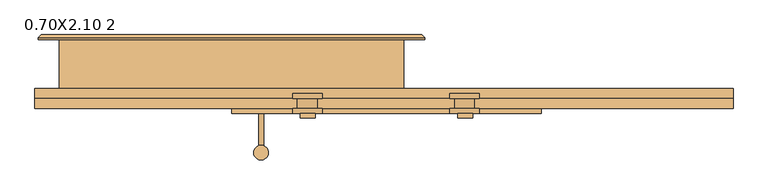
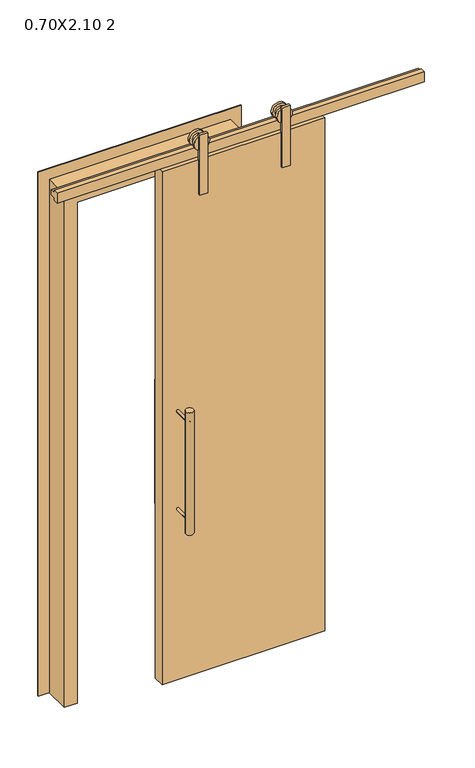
"""IFC4 building model written with IfcOpenShell, lengths in millimetres: door geometry, Porta de correr com revestimento - 1 Painel com trilho de aço inoxidável : 0.70X2.10 2."""

from ifc_helpers import new_model, si_unit, point, frame, frame_2d, origin, origin_with_axes, place, context, project, spatial, polyline, circle_curve, trimmed, segment, composite_curve, outline, extrude, faceted_brep, source, transform, mapped, element, save


def door_0_70x2_10_2_77146840(model_context):
    return source(origin(), model_context, "Body", "SolidModel", [
        extrude(outline(composite_curve([segment(trimmed(circle_curve(frame_2d((60.0, 25.0)), 15.0), [point((45.0, 25.0))], [point((75.0, 25.0))], False, "CARTESIAN"), True, "CONTINUOUS"), segment(trimmed(circle_curve(frame_2d((60.0, 25.0)), 15.0), [point((75.0, 25.0))], [point((45.0, 25.0))], False, "CARTESIAN"), True, "CONTINUOUS")], self_intersect=False)), frame((0.0, 0.0, 650.0), z_axis=(0.0, 0.0, 1.0), x_axis=(1.0, 0.0, 0.0)), (0.0, 0.0, 1.0), 500.0),
        extrude(outline(composite_curve([segment(trimmed(circle_curve(frame_2d((1100.0, 60.0)), 5.0), [point((1100.0, 55.0))], [point((1100.0, 65.0))], False, "CARTESIAN"), True, "CONTINUOUS"), segment(trimmed(circle_curve(frame_2d((1100.0, 60.0)), 5.0), [point((1100.0, 65.0))], [point((1100.0, 55.0))], False, "CARTESIAN"), True, "CONTINUOUS")], self_intersect=False)), frame((0.0, -55.0, 0.0), z_axis=(0.0, 1.0, 0.0), x_axis=(0.0, 0.0, 1.0)), (0.0, 0.0, 1.0), 80.0),
        extrude(outline(composite_curve([segment(trimmed(circle_curve(frame_2d((700.0, 60.0)), 5.0), [point((700.0, 55.0))], [point((700.0, 65.0))], False, "CARTESIAN"), True, "CONTINUOUS"), segment(trimmed(circle_curve(frame_2d((700.0, 60.0)), 5.0), [point((700.0, 65.0))], [point((700.0, 55.0))], False, "CARTESIAN"), True, "CONTINUOUS")], self_intersect=False)), frame((0.0, -55.0, 0.0), z_axis=(0.0, 1.0, 0.0), x_axis=(0.0, 0.0, 1.0)), (0.0, 0.0, 1.0), 80.0),
        extrude(outline(composite_curve([segment(trimmed(circle_curve(frame_2d((1100.0, 60.0)), 5.0), [point((1100.0, 55.0))], [point((1100.0, 65.0))], False, "CARTESIAN"), True, "CONTINUOUS"), segment(trimmed(circle_curve(frame_2d((1100.0, 60.0)), 5.0), [point((1100.0, 65.0))], [point((1100.0, 55.0))], False, "CARTESIAN"), True, "CONTINUOUS")], self_intersect=False)), frame((0.0, -180.0, 0.0), z_axis=(0.0, 1.0, 0.0), x_axis=(0.0, 0.0, 1.0)), (0.0, 0.0, 1.0), 80.0),
        extrude(outline(composite_curve([segment(trimmed(circle_curve(frame_2d((700.0, 60.0)), 5.0), [point((700.0, 55.0))], [point((700.0, 65.0))], False, "CARTESIAN"), True, "CONTINUOUS"), segment(trimmed(circle_curve(frame_2d((700.0, 60.0)), 5.0), [point((700.0, 65.0))], [point((700.0, 55.0))], False, "CARTESIAN"), True, "CONTINUOUS")], self_intersect=False)), frame((0.0, -180.0, 0.0), z_axis=(0.0, 1.0, 0.0), x_axis=(0.0, 0.0, 1.0)), (0.0, 0.0, 1.0), 80.0),
        extrude(outline(composite_curve([segment(trimmed(circle_curve(frame_2d((60.0, -180.0)), 15.0), [point((45.0, -180.0))], [point((75.0, -180.0))], False, "CARTESIAN"), True, "CONTINUOUS"), segment(trimmed(circle_curve(frame_2d((60.0, -180.0)), 15.0), [point((75.0, -180.0))], [point((45.0, -180.0))], False, "CARTESIAN"), True, "CONTINUOUS")], self_intersect=False)), frame((0.0, 0.0, 650.0), z_axis=(0.0, 0.0, 1.0), x_axis=(1.0, 0.0, 0.0)), (0.0, 0.0, 1.0), 500.0),
        extrude(outline(composite_curve([segment(trimmed(circle_curve(frame_2d((2165.0, 473.9705806)), 30.0), [point((2165.0, 503.9705806))], [point((2165.0, 443.9705806))], False, "CARTESIAN"), True, "CONTINUOUS"), segment(trimmed(circle_curve(frame_2d((2165.0, 473.9705806)), 30.0), [point((2165.0, 443.9705806))], [point((2165.0, 503.9705806))], False, "CARTESIAN"), True, "CONTINUOUS")], self_intersect=False)), frame((0.0, -100.0, 0.0), z_axis=(0.0, 1.0, 0.0), x_axis=(0.0, 0.0, 1.0)), (0.0, 0.0, 1.0), 10.0),
        extrude(outline(polyline([(490.0, -110.0), (460.0, -110.0), (460.0, -100.0), (490.0, -100.0), (490.0, -110.0)])), frame((0.0, 0.0, 1960.0), z_axis=(0.0, 0.0, 1.0), x_axis=(1.0, 0.0, 0.0)), (0.0, 0.0, 1.0), 245.0),
        extrude(outline(composite_curve([segment(trimmed(circle_curve(frame_2d((2165.0, 473.9705806)), 20.0), [point((2165.0, 493.9705806))], [point((2165.0, 453.9705806))], False, "CARTESIAN"), True, "CONTINUOUS"), segment(trimmed(circle_curve(frame_2d((2165.0, 473.9705806)), 20.0), [point((2165.0, 453.9705806))], [point((2165.0, 493.9705806))], False, "CARTESIAN"), True, "CONTINUOUS")], self_intersect=False)), frame((0.0, -90.0, 0.0), z_axis=(0.0, 1.0, 0.0), x_axis=(0.0, 0.0, 1.0)), (0.0, 0.0, 1.0), 20.0),
        extrude(outline(composite_curve([segment(trimmed(circle_curve(frame_2d((2165.0, 473.9705806)), 30.0), [point((2165.0, 503.9705806))], [point((2165.0, 443.9705806))], False, "CARTESIAN"), True, "CONTINUOUS"), segment(trimmed(circle_curve(frame_2d((2165.0, 473.9705806)), 30.0), [point((2165.0, 443.9705806))], [point((2165.0, 503.9705806))], False, "CARTESIAN"), True, "CONTINUOUS")], self_intersect=False)), frame((0.0, -70.0, 0.0), z_axis=(0.0, 1.0, 0.0), x_axis=(0.0, 0.0, 1.0)), (0.0, 0.0, 1.0), 10.0),
        extrude(outline(composite_curve([segment(trimmed(circle_curve(frame_2d((2165.0, 153.9705806)), 30.0), [point((2165.0, 183.9705806))], [point((2165.0, 123.9705806))], False, "CARTESIAN"), True, "CONTINUOUS"), segment(trimmed(circle_curve(frame_2d((2165.0, 153.9705806)), 30.0), [point((2165.0, 123.9705806))], [point((2165.0, 183.9705806))], False, "CARTESIAN"), True, "CONTINUOUS")], self_intersect=False)), frame((0.0, -100.0, 0.0), z_axis=(0.0, 1.0, 0.0), x_axis=(0.0, 0.0, 1.0)), (0.0, 0.0, 1.0), 10.0),
        extrude(outline(polyline([(170.0, -110.0), (140.0, -110.0), (140.0, -100.0), (170.0, -100.0), (170.0, -110.0)])), frame((0.0, 0.0, 1960.0), z_axis=(0.0, 0.0, 1.0), x_axis=(1.0, 0.0, 0.0)), (0.0, 0.0, 1.0), 245.0),
        extrude(outline(composite_curve([segment(trimmed(circle_curve(frame_2d((2165.0, 153.9705806)), 20.0), [point((2165.0, 173.9705806))], [point((2165.0, 133.9705806))], False, "CARTESIAN"), True, "CONTINUOUS"), segment(trimmed(circle_curve(frame_2d((2165.0, 153.9705806)), 20.0), [point((2165.0, 133.9705806))], [point((2165.0, 173.9705806))], False, "CARTESIAN"), True, "CONTINUOUS")], self_intersect=False)), frame((0.0, -90.0, 0.0), z_axis=(0.0, 1.0, 0.0), x_axis=(0.0, 0.0, 1.0)), (0.0, 0.0, 1.0), 20.0),
        extrude(outline(composite_curve([segment(trimmed(circle_curve(frame_2d((2165.0, 153.9705806)), 30.0), [point((2165.0, 183.9705806))], [point((2165.0, 123.9705806))], False, "CARTESIAN"), True, "CONTINUOUS"), segment(trimmed(circle_curve(frame_2d((2165.0, 153.9705806)), 30.0), [point((2165.0, 123.9705806))], [point((2165.0, 183.9705806))], False, "CARTESIAN"), True, "CONTINUOUS")], self_intersect=False)), frame((0.0, -70.0, 0.0), z_axis=(0.0, 1.0, 0.0), x_axis=(0.0, 0.0, 1.0)), (0.0, 0.0, 1.0), 10.0),
        faceted_brep([(-393.0, 54.0, 0.0), (-387.0, 60.0, 0.0), (-323.0, 60.0, 0.0), (-323.0, 50.0, 0.0), (-393.0, 50.0, 0.0), (-393.0, 54.0, 2143.0), (-387.0, 60.0, 2137.0), (387.0, 60.0, 2137.0), (387.0, 60.0, 0.0), (323.0, 60.0, 0.0), (323.0, 60.0, 2073.0), (-323.0, 60.0, 2073.0), (-323.0, 50.0, 2073.0), (323.0, 50.0, 2073.0), (323.0, 50.0, 0.0), (393.0, 50.0, 0.0), (393.0, 50.0, 2143.0), (-393.0, 50.0, 2143.0), (393.0, 54.0, 2143.0), (393.0, 54.0, 0.0)], [[[0, 1, 2, 3, 4]], [[1, 0, 5, 6]], [[2, 1, 6, 7, 8, 9, 10, 11]], [[3, 2, 11, 12]], [[4, 3, 12, 13, 14, 15, 16, 17]], [[0, 4, 17, 5]], [[7, 18, 19, 8]], [[19, 15, 14, 9, 8]], [[13, 10, 9, 14]], [[18, 16, 15, 19]], [[6, 5, 18, 7]], [[12, 11, 10, 13]], [[5, 17, 16, 18]]]),
        extrude(outline(polyline([(630.0, -55.0), (630.0, -100.0), (0.0, -100.0), (0.0, -55.0), (630.0, -55.0)])), origin_with_axes(), (0.0, 0.0, 1.0), 2100.0),
        extrude(outline(polyline([(0.0, -350.0), (0.0, -300.0), (2050.0, -300.0), (2050.0, 300.0), (0.0, 300.0), (0.0, 350.0), (2100.0, 350.0), (2100.0, -350.0), (0.0, -350.0)])), frame((0.0, -50.0, 0.0), z_axis=(0.0, 1.0, 0.0), x_axis=(0.0, 0.0, 1.0)), (0.0, 0.0, 1.0), 100.0),
        extrude(outline(polyline([(-70.0, 2105.0), (-90.0, 2105.0), (-90.0, 2145.0), (-70.0, 2145.0), (-70.0, 2135.0), (-50.0, 2135.0), (-50.0, 2115.0), (-70.0, 2115.0), (-70.0, 2105.0)])), frame((-400.0, 0.0, 0.0), z_axis=(1.0, 0.0, 0.0), x_axis=(0.0, 1.0, 0.0)), (0.0, 0.0, 1.0), 1420.0),
    ])


if __name__ == "__main__":
    model = new_model("IFC4")
    model_context = context("Model", 3, world=origin())
    ifc_project = project(units=[si_unit("LENGTHUNIT", "METRE", prefix="MILLI")], contexts=[model_context])
    site = spatial("IfcSite", under=ifc_project)
    building = spatial("IfcBuilding", under=site)
    placement = place(None, origin())
    door_0_70x2_10_2_shape = door_0_70x2_10_2_77146840(model_context)
    element("IfcDoor", 1, ObjectType="Porta de correr com revestimento - 1 Painel com trilho de aço inoxidável : 0.70X2.10 2", at=placement, inside=building, context=model_context, shape_type="MappedRepresentation", body=[
        mapped(door_0_70x2_10_2_shape, transform((0.0, 0.0, 0.0), x_axis=(1.0, 0.0, 0.0), y_axis=(0.0, 1.0, 0.0), z_axis=(0.0, 0.0, 1.0))),
    ])
    save(model, "model.ifc")
